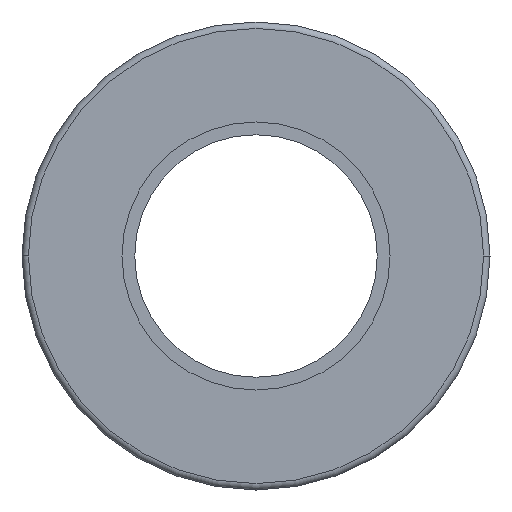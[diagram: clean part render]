
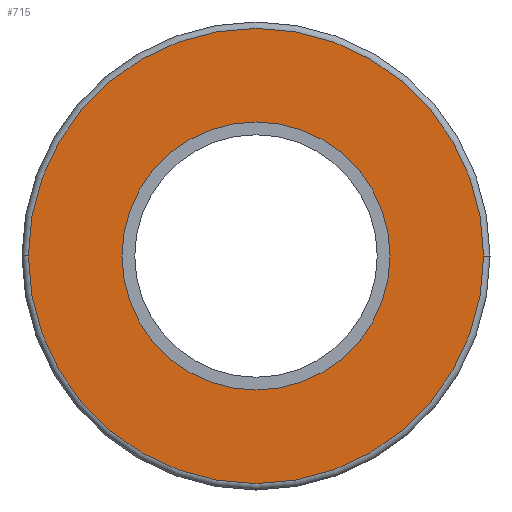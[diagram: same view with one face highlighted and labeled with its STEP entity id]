
A CAD part, left-side view. The second image highlights one B-rep face of the part: STEP entity #715.
In plain terms, the highlighted planar face has unit normal (-1, 0, 0).
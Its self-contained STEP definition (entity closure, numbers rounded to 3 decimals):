
#7 = ORIENTED_EDGE ( 'NONE', *, *, #815, .T. ) ;
#19 = AXIS2_PLACEMENT_3D ( 'NONE', #1150, #653, #44 ) ;
#37 = EDGE_CURVE ( 'NONE', #460, #576, #713, .T. ) ;
#44 = DIRECTION ( 'NONE',  ( 0., 0., 1. ) ) ;
#86 = DIRECTION ( 'NONE',  ( 1., 0., 0. ) ) ;
#87 = CARTESIAN_POINT ( 'NONE',  ( 0., 0., 0. ) ) ;
#152 = EDGE_LOOP ( 'NONE', ( #889, #7 ) ) ;
#183 = CARTESIAN_POINT ( 'NONE',  ( 0., 0., 0. ) ) ;
#204 = CIRCLE ( 'NONE', #864, 6.3 ) ;
#235 = DIRECTION ( 'NONE',  ( 0., 0., 1. ) ) ;
#248 = ORIENTED_EDGE ( 'NONE', *, *, #442, .T. ) ;
#282 = CARTESIAN_POINT ( 'NONE',  ( 0., -10.7, 0. ) ) ;
#315 = EDGE_CURVE ( 'NONE', #919, #948, #204, .T. ) ;
#406 = CARTESIAN_POINT ( 'NONE',  ( 0., 0., 6.3 ) ) ;
#413 = CIRCLE ( 'NONE', #1154, 10.7 ) ;
#439 = ORIENTED_EDGE ( 'NONE', *, *, #37, .T. ) ;
#442 = EDGE_CURVE ( 'NONE', #576, #460, #413, .T. ) ;
#460 = VERTEX_POINT ( 'NONE', #282 ) ;
#553 = CARTESIAN_POINT ( 'NONE',  ( 0., 0., -6.3 ) ) ;
#554 = CARTESIAN_POINT ( 'NONE',  ( 0., 0., -5.5 ) ) ;
#576 = VERTEX_POINT ( 'NONE', #1126 ) ;
#592 = DIRECTION ( 'NONE',  ( 0., 0., -1. ) ) ;
#630 = DIRECTION ( 'NONE',  ( 1., 0., 0. ) ) ;
#653 = DIRECTION ( 'NONE',  ( -1., 0., 0. ) ) ;
#707 = AXIS2_PLACEMENT_3D ( 'NONE', #1251, #630, #730 ) ;
#713 = CIRCLE ( 'NONE', #19, 10.7 ) ;
#715 = ADVANCED_FACE ( 'NONE', ( #1257, #1145 ), #1252, .T. ) ;
#730 = DIRECTION ( 'NONE',  ( 0., 0., -1. ) ) ;
#815 = EDGE_CURVE ( 'NONE', #948, #919, #1276, .T. ) ;
#864 = AXIS2_PLACEMENT_3D ( 'NONE', #183, #86, #592 ) ;
#889 = ORIENTED_EDGE ( 'NONE', *, *, #315, .T. ) ;
#919 = VERTEX_POINT ( 'NONE', #553 ) ;
#948 = VERTEX_POINT ( 'NONE', #406 ) ;
#1047 = DIRECTION ( 'NONE',  ( -1., 0., 0. ) ) ;
#1081 = EDGE_LOOP ( 'NONE', ( #439, #248 ) ) ;
#1106 = AXIS2_PLACEMENT_3D ( 'NONE', #554, #1047, #235 ) ;
#1126 = CARTESIAN_POINT ( 'NONE',  ( 0., 10.7, 0. ) ) ;
#1145 = FACE_OUTER_BOUND ( 'NONE', #1081, .T. ) ;
#1150 = CARTESIAN_POINT ( 'NONE',  ( 0., 0., 0. ) ) ;
#1154 = AXIS2_PLACEMENT_3D ( 'NONE', #87, #1196, #1293 ) ;
#1196 = DIRECTION ( 'NONE',  ( -1., 0., 0. ) ) ;
#1251 = CARTESIAN_POINT ( 'NONE',  ( 0., 0., 0. ) ) ;
#1252 = PLANE ( 'NONE',  #1106 ) ;
#1257 = FACE_BOUND ( 'NONE', #152, .T. ) ;
#1276 = CIRCLE ( 'NONE', #707, 6.3 ) ;
#1293 = DIRECTION ( 'NONE',  ( 0., 0., 1. ) ) ;
